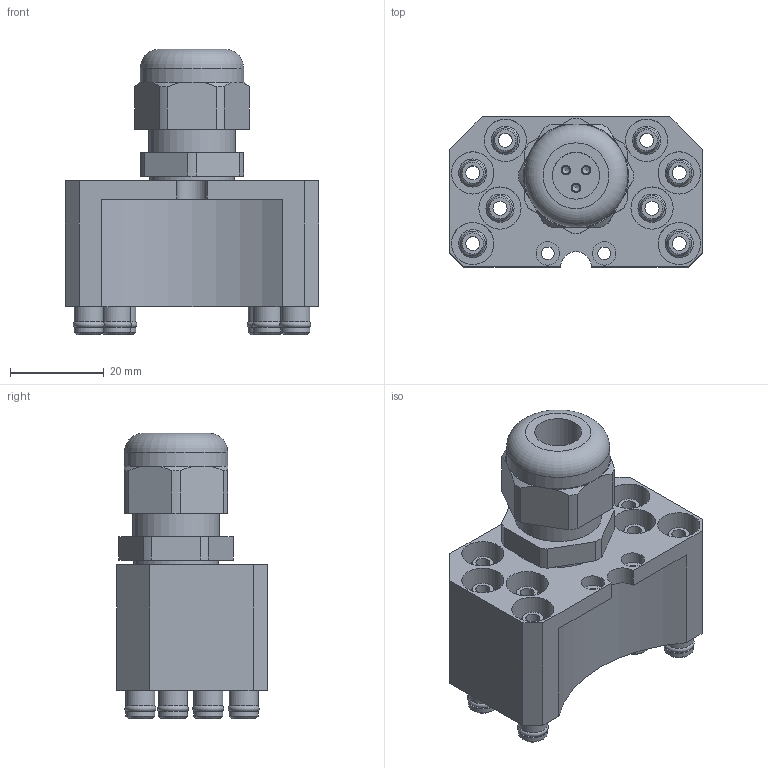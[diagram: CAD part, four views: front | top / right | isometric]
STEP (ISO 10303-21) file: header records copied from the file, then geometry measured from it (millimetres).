
FILE_DESCRIPTION((''),'2;1');
FILE_NAME('T:\CAD\Standard\Daten\Datenbank STANDARD 00\3 MEK\4 - 3D-CAD-Daten MEK 063-160\MEK063\step-Daten\G-MEK063-O-8Pk4-1E12.stp','2012-12-05T16:21:57',('Yvonne'),(''),'Autodesk Inventor 2011','Autodesk Inventor 2011','');
FILE_SCHEMA(('AUTOMOTIVE_DESIGN { 1 0 10303 214 1 1 1 1 }'));
Length unit declared in the file: millimetre
Products named in the file (1): Bauteil14
Bounding box: 54 x 32 x 60.8 mm (x, y, z)
Volume: 36155.9 mm3; surface area: 28393.8 mm2
Topology: 1 solids, 1 shells, 501 faces, 1150 edges, 703 vertices
Faces by surface type: cylinder 209, plane 191, cone 62, torus 27, sphere 12
Full cylindrical faces by diameter (mm): 1 x12, 1.6 x12, 2 x26, 2.7 x2, 3 x8, 4 x8, 4.2 x16, 4.8 x8, 5 x2, 5.5 x8, 5.9 x8, 6 x8, 6.2 x16, 8 x8, 8.3 x8, 9 x8, 10 x1, 14 x1, 15.9 x1, 17.1 x1, 18.1 x1, 18.5 x2, 22 x1, 23 x1
Entity records: 14234 total; most frequent: CARTESIAN_POINT 3407, DIRECTION 2271, ORIENTED_EDGE 1704, AXIS2_PLACEMENT_3D 993, EDGE_LOOP 854, EDGE_CURVE 852, VERTEX_POINT 639, FACE_OUTER_BOUND 501
